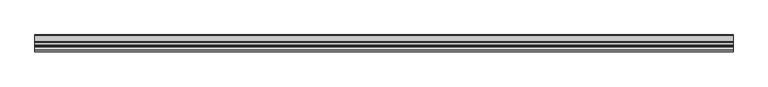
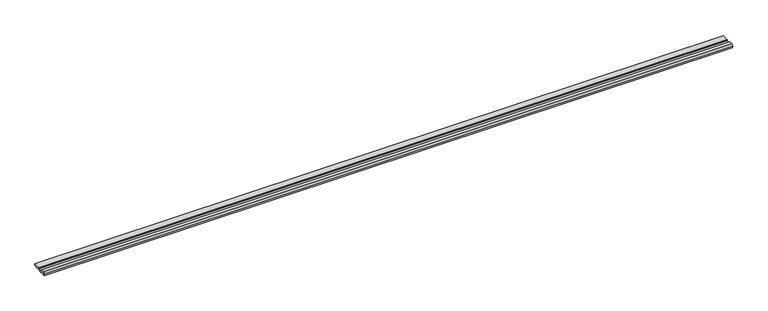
"""IFC4 building model written with IfcOpenShell, lengths in millimetres: proxy geometry, Muestra_5 m G49 : Muestra_5 m G49."""

from ifc_helpers import new_model, si_unit, point, frame, frame_2d, origin, place, context, project, spatial, polyline, circle_curve, trimmed, segment, composite_curve, outline, extrude, source, transform, mapped, element, save


def generic_models_e84ea2a9(model_context):
    return source(origin(), model_context, "Body", "SweptSolid", [
        extrude(outline(composite_curve([segment(polyline([(26055.7128717, -69.3861985), (26040.734606, -70.6053597), (26039.5590479, -56.1627885)]), True, "CONTINUOUS"), segment(trimmed(circle_curve(frame_2d((26049.5260855, -55.351518)), 10.0), [point((26039.5590479, -56.1627885))], [point((26048.7148175, -45.3844801))], False, "CARTESIAN"), True, "CONTINUOUS"), segment(polyline([(26048.7148175, -45.3844801), (26075.1684137, -43.2312869), (26078.6345644, -49.9840338), (26081.2524513, -54.2803076), (26082.4173033, -56.0442089)]), True, "CONTINUOUS"), segment(trimmed(circle_curve(frame_2d((26084.9197132, -54.3916578)), 2.9988298), [point((26082.4173033, -56.0442089))], [point((26085.1629994, -57.3806028))], True, "CARTESIAN"), True, "CONTINUOUS"), segment(polyline([(26085.1629994, -57.3806028), (26104.6487526, -55.794553)]), True, "CONTINUOUS"), segment(trimmed(circle_curve(frame_2d((26104.157483, -49.7589541)), 6.0555595), [point((26104.6487526, -55.794553))], [point((26109.8238608, -51.8948293))], True, "CARTESIAN"), True, "CONTINUOUS"), segment(polyline([(26109.8238608, -51.8948293), (26110.2222323, -51.1129811), (26158.2235474, -47.2058973), (26159.3423544, -60.9512406), (26078.5206474, -67.5297517)]), True, "CONTINUOUS"), segment(trimmed(circle_curve(frame_2d((26067.2427869, -70.0063108)), 11.5465789), [point((26078.5206474, -67.5297517))], [point((26055.7128717, -69.3861985))], True, "CARTESIAN"), True, "CONTINUOUS")], self_intersect=False)), frame((69804.3605232, 0.0, 0.0), z_axis=(1.0, 0.0, 0.0), x_axis=(0.0, 1.0, 0.0)), (0.0, 0.0, 1.0), 5000.0),
    ])


if __name__ == "__main__":
    model = new_model("IFC4")
    model_context = context("Model", 3, world=origin())
    ifc_project = project(units=[si_unit("LENGTHUNIT", "METRE", prefix="MILLI")], contexts=[model_context])
    site = spatial("IfcSite", under=ifc_project)
    building = spatial("IfcBuilding", under=site)
    placement = place(None, origin())
    generic_models_shape = generic_models_e84ea2a9(model_context)
    element("IfcBuildingElementProxy", 1, Name="Muestra_5 m G49 : Muestra_5 m G49", ObjectType="Muestra_5 m G49 : Muestra_5 m G49", at=placement, inside=building, context=model_context, shape_type="MappedRepresentation", body=[
        mapped(generic_models_shape, transform((0.0, 0.0, 0.0), x_axis=(1.0, 0.0, 0.0), y_axis=(0.0, 1.0, 0.0), z_axis=(0.0, 0.0, 1.0))),
    ])
    save(model, "model.ifc")
